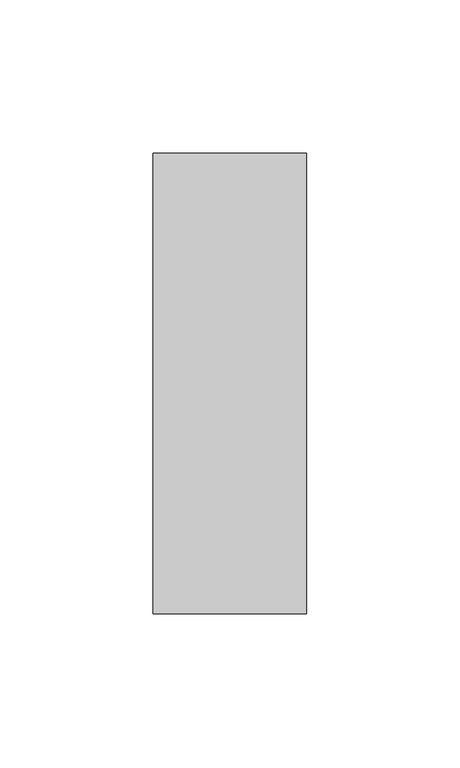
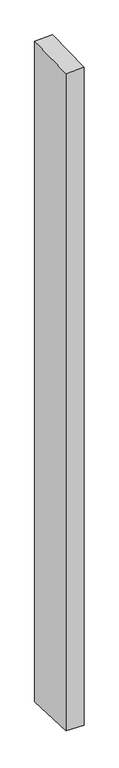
"""IFC4 building model written with IfcOpenShell, lengths in millimetres: member geometry, Прямоугольный импост : 50 x 150 мм."""

from ifc_helpers import new_model, si_unit, origin, place, context, project, spatial, faceted_brep, source, transform, mapped, element, save


def member_672527cd(model_context):
    return source(origin(), model_context, "Body", "Brep", [
        faceted_brep([(-25.0, 75.0, 1.3087103), (25.0, 75.0, 2.2809537), (25.0, 75.0, -1930.7626792), (-25.0, 75.0, -1929.6262268), (-25.0, -75.0, -2.2809537), (-25.0, -75.0, -1924.1081164), (25.0, -75.0, -1.3087103), (25.0, -75.0, -1925.2445688)], [[[0, 1, 2, 3]], [[4, 0, 3, 5]], [[6, 4, 5, 7]], [[1, 6, 7, 2]], [[1, 0, 4, 6]], [[2, 7, 5, 3]]]),
    ])


if __name__ == "__main__":
    model = new_model("IFC4")
    model_context = context("Model", 3, world=origin())
    ifc_project = project(units=[si_unit("LENGTHUNIT", "METRE", prefix="MILLI")], contexts=[model_context])
    site = spatial("IfcSite", under=ifc_project)
    building = spatial("IfcBuilding", under=site)
    placement = place(None, origin())
    member_shape = member_672527cd(model_context)
    element("IfcMember", 1, ObjectType="Прямоугольный импост : 50 x 150 мм", at=placement, inside=building, context=model_context, shape_type="MappedRepresentation", body=[
        mapped(member_shape, transform((0.0, 0.0, 0.0), x_axis=(1.0, 0.0, 0.0), y_axis=(0.0, 1.0, 0.0), z_axis=(0.0, 0.0, 1.0))),
    ])
    save(model, "model.ifc")
